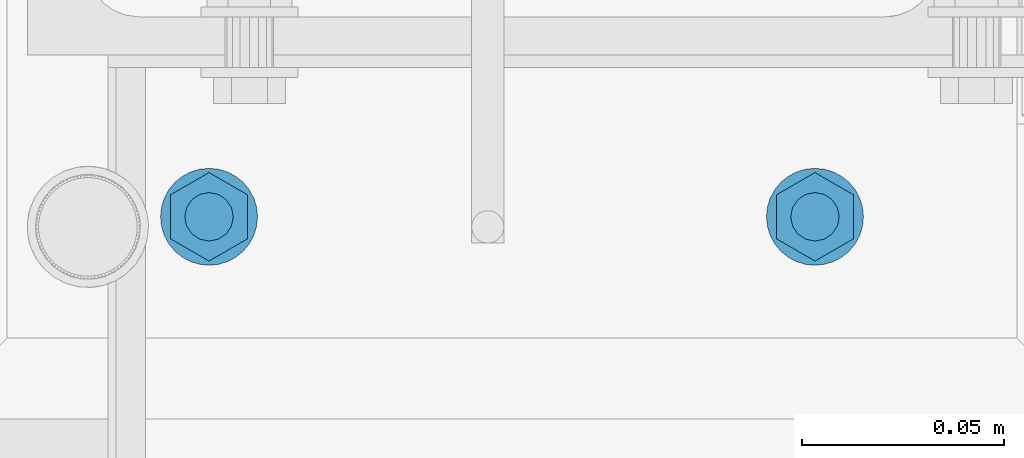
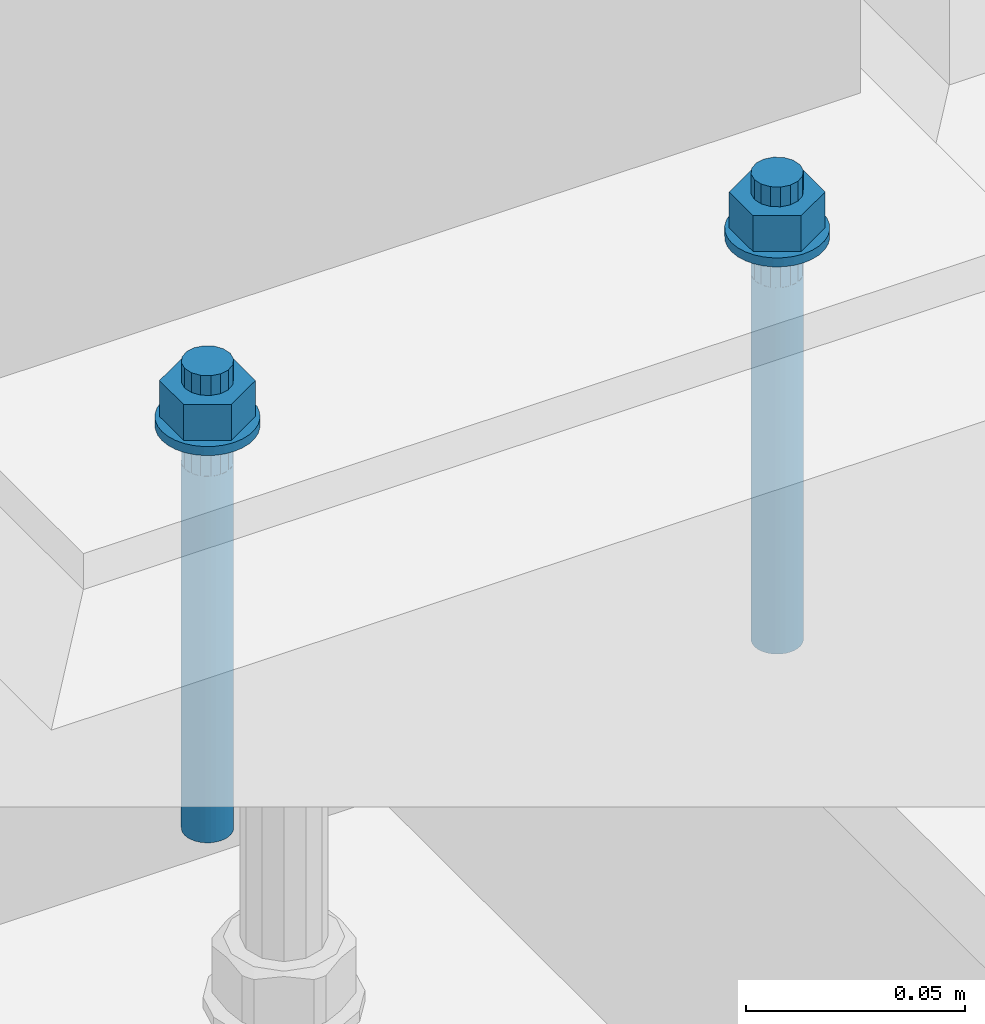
# One storey, part 31 of 145: 1 mechanical fastener.
"""IFC2X3 building model written with IfcOpenShell, lengths in millimetres."""

from ifc_helpers import new_model, entity, si_unit, converted_unit, origin_with_axes, place, context, project, spatial, faceted_brep, element, save


model = new_model("IFC2X3")

# Units and contexts
model_context = context("Model", 3, precision=1e-09, world=origin_with_axes())
ifc_project = project(units=[si_unit("LENGTHUNIT", "METRE", prefix="MILLI"), si_unit("AREAUNIT", "SQUARE_METRE"), si_unit("VOLUMEUNIT", "CUBIC_METRE"), converted_unit("PLANEANGLEUNIT", "DEGREE", entity("IfcPlaneAngleMeasure", 0.01745329), si_unit("PLANEANGLEUNIT", "RADIAN"), dimensions=[0, 0, 0, 0, 0, 0, 0])], contexts=[model_context])

# Site, building, storey
site_placement = place(None, origin_with_axes())
site = spatial("IfcSite", under=ifc_project, at=site_placement, Name="BZ1 Grund- und Mittelschule 85716 Unterschlei?heim", CompositionType="ELEMENT")
building_placement = place(site_placement, origin_with_axes())
building = spatial("IfcBuilding", under=site, at=building_placement, Name="Struktur 1", CompositionType="ELEMENT")
storey_placement = place(building_placement, origin_with_axes())
storey = spatial("IfcBuildingStorey", under=building, at=storey_placement, Name="Default Storey", CompositionType="ELEMENT", Elevation=0.0)

# Mechanical fastener
mechanical_fastener_placement = place(None, origin_with_axes())
element("IfcMechanicalFastener", 1, at=mechanical_fastener_placement, inside=storey, ObjectType="-", NominalDiameter=12.0, NominalLength=130.0, context=model_context, shape_type="Brep", body=[
    faceted_brep([(16827.545399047, -1960.002, -727.5), (16827.545399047, -1960.002, -730.0), (16827.775975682, -1962.343083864, -730.0), (16827.775975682, -1962.343083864, -727.5), (16828.458844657, -1964.594201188, -730.0), (16828.458844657, -1964.594201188, -727.5), (16829.567763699, -1966.668842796, -730.0), (16829.567763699, -1966.668842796, -727.5), (16831.060117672, -1968.487281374, -730.0), (16831.060117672, -1968.487281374, -727.5), (16832.87855625, -1969.979635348, -730.0), (16832.87855625, -1969.979635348, -727.5), (16834.953197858, -1971.08855439, -730.0), (16834.953197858, -1971.08855439, -727.5), (16837.204315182, -1971.771423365, -730.0), (16837.204315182, -1971.771423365, -727.5), (16839.545399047, -1972.002, -730.0), (16839.545399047, -1972.002, -727.5), (16841.886482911, -1971.771423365, -730.0), (16841.886482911, -1971.771423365, -727.5), (16844.137600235, -1971.08855439, -730.0), (16844.137600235, -1971.08855439, -727.5), (16846.212241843, -1969.979635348, -730.0), (16846.212241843, -1969.979635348, -727.5), (16848.030680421, -1968.487281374, -730.0), (16848.030680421, -1968.487281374, -727.5), (16849.523034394, -1966.668842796, -730.0), (16849.523034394, -1966.668842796, -727.5), (16850.631953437, -1964.594201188, -730.0), (16850.631953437, -1964.594201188, -727.5), (16851.314822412, -1962.343083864, -730.0), (16851.314822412, -1962.343083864, -727.5), (16851.545399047, -1960.002, -730.0), (16851.545399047, -1960.002, -727.5), (16851.314822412, -1957.660916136, -730.0), (16851.314822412, -1957.660916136, -727.5), (16850.631953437, -1955.409798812, -730.0), (16850.631953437, -1955.409798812, -727.5), (16849.523034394, -1953.335157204, -730.0), (16849.523034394, -1953.335157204, -727.5), (16848.030680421, -1951.516718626, -730.0), (16848.030680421, -1951.516718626, -727.5), (16846.212241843, -1950.024364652, -730.0), (16846.212241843, -1950.024364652, -727.5), (16844.137600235, -1948.91544561, -730.0), (16844.137600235, -1948.91544561, -727.5), (16841.886482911, -1948.232576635, -730.0), (16841.886482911, -1948.232576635, -727.5), (16839.545399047, -1948.002, -730.0), (16839.545399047, -1948.002, -727.5), (16837.204315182, -1948.232576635, -730.0), (16837.204315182, -1948.232576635, -727.5), (16834.953197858, -1948.91544561, -730.0), (16834.953197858, -1948.91544561, -727.5), (16832.87855625, -1950.024364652, -730.0), (16832.87855625, -1950.024364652, -727.5), (16831.060117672, -1951.516718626, -730.0), (16831.060117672, -1951.516718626, -727.5), (16829.567763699, -1953.335157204, -730.0), (16829.567763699, -1953.335157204, -727.5), (16828.458844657, -1955.409798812, -730.0), (16828.458844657, -1955.409798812, -727.5), (16827.775975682, -1957.660916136, -730.0), (16827.775975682, -1957.660916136, -727.5)], [[[0, 1, 2, 3]], [[3, 2, 4, 5]], [[5, 4, 6, 7]], [[7, 6, 8, 9]], [[9, 8, 10, 11]], [[11, 10, 12, 13]], [[13, 12, 14, 15]], [[15, 14, 16, 17]], [[17, 16, 18, 19]], [[19, 18, 20, 21]], [[21, 20, 22, 23]], [[23, 22, 24, 25]], [[25, 24, 26, 27]], [[27, 26, 28, 29]], [[29, 28, 30, 31]], [[31, 30, 32, 33]], [[33, 32, 34, 35]], [[35, 34, 36, 37]], [[37, 36, 38, 39]], [[39, 38, 40, 41]], [[41, 40, 42, 43]], [[43, 42, 44, 45]], [[45, 44, 46, 47]], [[47, 46, 48, 49]], [[49, 48, 50, 51]], [[51, 50, 52, 53]], [[53, 52, 54, 55]], [[55, 54, 56, 57]], [[57, 56, 58, 59]], [[59, 58, 60, 61]], [[61, 60, 62, 63]], [[63, 62, 1, 0]], [[0, 3, 5, 7, 9, 11, 13, 15, 17, 19, 21, 23, 25, 27, 29, 31, 33, 35, 37, 39, 41, 43, 45, 47, 49, 51, 53, 55, 57, 59, 61, 63]], [[1, 62, 60, 58, 56, 54, 52, 50, 48, 46, 44, 42, 40, 38, 36, 34, 32, 30, 28, 26, 24, 22, 20, 18, 16, 14, 12, 10, 8, 6, 4, 2]]]),
    faceted_brep([(16677.545399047, -1960.002, -727.5), (16677.545399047, -1960.002, -730.0), (16677.775975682, -1962.343083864, -730.0), (16677.775975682, -1962.343083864, -727.5), (16678.458844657, -1964.594201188, -730.0), (16678.458844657, -1964.594201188, -727.5), (16679.567763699, -1966.668842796, -730.0), (16679.567763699, -1966.668842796, -727.5), (16681.060117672, -1968.487281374, -730.0), (16681.060117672, -1968.487281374, -727.5), (16682.87855625, -1969.979635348, -730.0), (16682.87855625, -1969.979635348, -727.5), (16684.953197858, -1971.08855439, -730.0), (16684.953197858, -1971.08855439, -727.5), (16687.204315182, -1971.771423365, -730.0), (16687.204315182, -1971.771423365, -727.5), (16689.545399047, -1972.002, -730.0), (16689.545399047, -1972.002, -727.5), (16691.886482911, -1971.771423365, -730.0), (16691.886482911, -1971.771423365, -727.5), (16694.137600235, -1971.08855439, -730.0), (16694.137600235, -1971.08855439, -727.5), (16696.212241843, -1969.979635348, -730.0), (16696.212241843, -1969.979635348, -727.5), (16698.030680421, -1968.487281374, -730.0), (16698.030680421, -1968.487281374, -727.5), (16699.523034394, -1966.668842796, -730.0), (16699.523034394, -1966.668842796, -727.5), (16700.631953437, -1964.594201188, -730.0), (16700.631953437, -1964.594201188, -727.5), (16701.314822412, -1962.343083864, -730.0), (16701.314822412, -1962.343083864, -727.5), (16701.545399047, -1960.002, -730.0), (16701.545399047, -1960.002, -727.5), (16701.314822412, -1957.660916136, -730.0), (16701.314822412, -1957.660916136, -727.5), (16700.631953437, -1955.409798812, -730.0), (16700.631953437, -1955.409798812, -727.5), (16699.523034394, -1953.335157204, -730.0), (16699.523034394, -1953.335157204, -727.5), (16698.030680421, -1951.516718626, -730.0), (16698.030680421, -1951.516718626, -727.5), (16696.212241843, -1950.024364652, -730.0), (16696.212241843, -1950.024364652, -727.5), (16694.137600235, -1948.91544561, -730.0), (16694.137600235, -1948.91544561, -727.5), (16691.886482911, -1948.232576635, -730.0), (16691.886482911, -1948.232576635, -727.5), (16689.545399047, -1948.002, -730.0), (16689.545399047, -1948.002, -727.5), (16687.204315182, -1948.232576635, -730.0), (16687.204315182, -1948.232576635, -727.5), (16684.953197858, -1948.91544561, -730.0), (16684.953197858, -1948.91544561, -727.5), (16682.87855625, -1950.024364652, -730.0), (16682.87855625, -1950.024364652, -727.5), (16681.060117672, -1951.516718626, -730.0), (16681.060117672, -1951.516718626, -727.5), (16679.567763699, -1953.335157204, -730.0), (16679.567763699, -1953.335157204, -727.5), (16678.458844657, -1955.409798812, -730.0), (16678.458844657, -1955.409798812, -727.5), (16677.775975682, -1957.660916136, -730.0), (16677.775975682, -1957.660916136, -727.5)], [[[0, 1, 2, 3]], [[3, 2, 4, 5]], [[5, 4, 6, 7]], [[7, 6, 8, 9]], [[9, 8, 10, 11]], [[11, 10, 12, 13]], [[13, 12, 14, 15]], [[15, 14, 16, 17]], [[17, 16, 18, 19]], [[19, 18, 20, 21]], [[21, 20, 22, 23]], [[23, 22, 24, 25]], [[25, 24, 26, 27]], [[27, 26, 28, 29]], [[29, 28, 30, 31]], [[31, 30, 32, 33]], [[33, 32, 34, 35]], [[35, 34, 36, 37]], [[37, 36, 38, 39]], [[39, 38, 40, 41]], [[41, 40, 42, 43]], [[43, 42, 44, 45]], [[45, 44, 46, 47]], [[47, 46, 48, 49]], [[49, 48, 50, 51]], [[51, 50, 52, 53]], [[53, 52, 54, 55]], [[55, 54, 56, 57]], [[57, 56, 58, 59]], [[59, 58, 60, 61]], [[61, 60, 62, 63]], [[63, 62, 1, 0]], [[0, 3, 5, 7, 9, 11, 13, 15, 17, 19, 21, 23, 25, 27, 29, 31, 33, 35, 37, 39, 41, 43, 45, 47, 49, 51, 53, 55, 57, 59, 61, 63]], [[1, 62, 60, 58, 56, 54, 52, 50, 48, 46, 44, 42, 40, 38, 36, 34, 32, 30, 28, 26, 24, 22, 20, 18, 16, 14, 12, 10, 8, 6, 4, 2]]]),
    faceted_brep([(16849.028377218, -1965.477, -727.5), (16849.028377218, -1965.477, -717.5), (16839.545399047, -1970.952, -717.5), (16839.545399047, -1970.952, -727.5), (16830.062420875, -1965.477, -717.5), (16830.062420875, -1965.477, -727.5), (16830.062420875, -1954.527, -717.5), (16830.062420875, -1954.527, -727.5), (16839.545399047, -1949.052, -717.5), (16839.545399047, -1949.052, -727.5), (16849.028377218, -1954.527, -717.5), (16849.028377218, -1954.527, -727.5)], [[[0, 1, 2, 3]], [[3, 2, 4, 5]], [[5, 4, 6, 7]], [[7, 6, 8, 9]], [[9, 8, 10, 11]], [[11, 10, 1, 0]], [[4, 2, 1, 10, 8, 6]], [[0, 3, 5, 7, 9, 11]]]),
    faceted_brep([(16699.028377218, -1965.477, -727.5), (16699.028377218, -1965.477, -717.5), (16689.545399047, -1970.952, -717.5), (16689.545399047, -1970.952, -727.5), (16680.062420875, -1965.477, -717.5), (16680.062420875, -1965.477, -727.5), (16680.062420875, -1954.527, -717.5), (16680.062420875, -1954.527, -727.5), (16689.545399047, -1949.052, -717.5), (16689.545399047, -1949.052, -727.5), (16699.028377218, -1954.527, -717.5), (16699.028377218, -1954.527, -727.5)], [[[0, 1, 2, 3]], [[3, 2, 4, 5]], [[5, 4, 6, 7]], [[7, 6, 8, 9]], [[9, 8, 10, 11]], [[11, 10, 1, 0]], [[4, 2, 1, 10, 8, 6]], [[0, 3, 5, 7, 9, 11]]]),
    faceted_brep([(16833.545399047, -1960.002, -712.0), (16833.545399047, -1960.002, -717.5), (16834.002121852, -1962.298100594, -717.5), (16834.002121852, -1962.298100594, -712.0), (16835.30275836, -1964.244640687, -717.5), (16835.30275836, -1964.244640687, -712.0), (16837.249298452, -1965.545277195, -717.5), (16837.249298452, -1965.545277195, -712.0), (16839.545399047, -1966.002, -717.5), (16839.545399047, -1966.002, -712.0), (16841.841499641, -1965.545277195, -717.5), (16841.841499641, -1965.545277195, -712.0), (16843.788039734, -1964.244640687, -717.5), (16843.788039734, -1964.244640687, -712.0), (16845.088676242, -1962.298100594, -717.5), (16845.088676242, -1962.298100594, -712.0), (16845.545399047, -1960.002, -717.5), (16845.545399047, -1960.002, -712.0), (16845.088676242, -1957.705899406, -717.5), (16845.088676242, -1957.705899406, -712.0), (16843.788039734, -1955.759359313, -717.5), (16843.788039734, -1955.759359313, -712.0), (16841.841499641, -1954.458722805, -717.5), (16841.841499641, -1954.458722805, -712.0), (16839.545399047, -1954.002, -717.5), (16839.545399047, -1954.002, -712.0), (16837.249298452, -1954.458722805, -717.5), (16837.249298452, -1954.458722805, -712.0), (16835.30275836, -1955.759359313, -717.5), (16835.30275836, -1955.759359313, -712.0), (16834.002121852, -1957.705899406, -717.5), (16834.002121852, -1957.705899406, -712.0)], [[[0, 1, 2, 3]], [[3, 2, 4, 5]], [[5, 4, 6, 7]], [[7, 6, 8, 9]], [[9, 8, 10, 11]], [[11, 10, 12, 13]], [[13, 12, 14, 15]], [[15, 14, 16, 17]], [[17, 16, 18, 19]], [[19, 18, 20, 21]], [[21, 20, 22, 23]], [[23, 22, 24, 25]], [[25, 24, 26, 27]], [[27, 26, 28, 29]], [[29, 28, 30, 31]], [[31, 30, 1, 0]], [[0, 3, 5, 7, 9, 11, 13, 15, 17, 19, 21, 23, 25, 27, 29, 31]], [[1, 30, 28, 26, 24, 22, 20, 18, 16, 14, 12, 10, 8, 6, 4, 2]]]),
    faceted_brep([(16683.545399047, -1960.002, -712.0), (16683.545399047, -1960.002, -717.5), (16684.002121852, -1962.298100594, -717.5), (16684.002121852, -1962.298100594, -712.0), (16685.30275836, -1964.244640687, -717.5), (16685.30275836, -1964.244640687, -712.0), (16687.249298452, -1965.545277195, -717.5), (16687.249298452, -1965.545277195, -712.0), (16689.545399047, -1966.002, -717.5), (16689.545399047, -1966.002, -712.0), (16691.841499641, -1965.545277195, -717.5), (16691.841499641, -1965.545277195, -712.0), (16693.788039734, -1964.244640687, -717.5), (16693.788039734, -1964.244640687, -712.0), (16695.088676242, -1962.298100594, -717.5), (16695.088676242, -1962.298100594, -712.0), (16695.545399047, -1960.002, -717.5), (16695.545399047, -1960.002, -712.0), (16695.088676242, -1957.705899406, -717.5), (16695.088676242, -1957.705899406, -712.0), (16693.788039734, -1955.759359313, -717.5), (16693.788039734, -1955.759359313, -712.0), (16691.841499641, -1954.458722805, -717.5), (16691.841499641, -1954.458722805, -712.0), (16689.545399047, -1954.002, -717.5), (16689.545399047, -1954.002, -712.0), (16687.249298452, -1954.458722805, -717.5), (16687.249298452, -1954.458722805, -712.0), (16685.30275836, -1955.759359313, -717.5), (16685.30275836, -1955.759359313, -712.0), (16684.002121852, -1957.705899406, -717.5), (16684.002121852, -1957.705899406, -712.0)], [[[0, 1, 2, 3]], [[3, 2, 4, 5]], [[5, 4, 6, 7]], [[7, 6, 8, 9]], [[9, 8, 10, 11]], [[11, 10, 12, 13]], [[13, 12, 14, 15]], [[15, 14, 16, 17]], [[17, 16, 18, 19]], [[19, 18, 20, 21]], [[21, 20, 22, 23]], [[23, 22, 24, 25]], [[25, 24, 26, 27]], [[27, 26, 28, 29]], [[29, 28, 30, 31]], [[31, 30, 1, 0]], [[0, 3, 5, 7, 9, 11, 13, 15, 17, 19, 21, 23, 25, 27, 29, 31]], [[1, 30, 28, 26, 24, 22, 20, 18, 16, 14, 12, 10, 8, 6, 4, 2]]]),
    faceted_brep([(16833.545399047, -1960.002, -730.0), (16833.545399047, -1960.002, -740.0), (16834.002121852, -1962.298100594, -740.0), (16834.002121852, -1962.298100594, -730.0), (16835.30275836, -1964.244640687, -740.0), (16835.30275836, -1964.244640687, -730.0), (16837.249298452, -1965.545277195, -740.0), (16837.249298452, -1965.545277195, -730.0), (16839.545399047, -1966.002, -740.0), (16839.545399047, -1966.002, -730.0), (16841.841499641, -1965.545277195, -740.0), (16841.841499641, -1965.545277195, -730.0), (16843.788039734, -1964.244640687, -740.0), (16843.788039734, -1964.244640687, -730.0), (16845.088676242, -1962.298100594, -740.0), (16845.088676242, -1962.298100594, -730.0), (16845.545399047, -1960.002, -740.0), (16845.545399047, -1960.002, -730.0), (16845.088676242, -1957.705899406, -740.0), (16845.088676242, -1957.705899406, -730.0), (16843.788039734, -1955.759359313, -740.0), (16843.788039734, -1955.759359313, -730.0), (16841.841499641, -1954.458722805, -740.0), (16841.841499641, -1954.458722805, -730.0), (16839.545399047, -1954.002, -740.0), (16839.545399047, -1954.002, -730.0), (16837.249298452, -1954.458722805, -740.0), (16837.249298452, -1954.458722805, -730.0), (16835.30275836, -1955.759359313, -740.0), (16835.30275836, -1955.759359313, -730.0), (16834.002121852, -1957.705899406, -740.0), (16834.002121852, -1957.705899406, -730.0)], [[[0, 1, 2, 3]], [[3, 2, 4, 5]], [[5, 4, 6, 7]], [[7, 6, 8, 9]], [[9, 8, 10, 11]], [[11, 10, 12, 13]], [[13, 12, 14, 15]], [[15, 14, 16, 17]], [[17, 16, 18, 19]], [[19, 18, 20, 21]], [[21, 20, 22, 23]], [[23, 22, 24, 25]], [[25, 24, 26, 27]], [[27, 26, 28, 29]], [[29, 28, 30, 31]], [[31, 30, 1, 0]], [[0, 3, 5, 7, 9, 11, 13, 15, 17, 19, 21, 23, 25, 27, 29, 31]], [[1, 30, 28, 26, 24, 22, 20, 18, 16, 14, 12, 10, 8, 6, 4, 2]]]),
    faceted_brep([(16683.545399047, -1960.002, -730.0), (16683.545399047, -1960.002, -740.0), (16684.002121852, -1962.298100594, -740.0), (16684.002121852, -1962.298100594, -730.0), (16685.30275836, -1964.244640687, -740.0), (16685.30275836, -1964.244640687, -730.0), (16687.249298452, -1965.545277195, -740.0), (16687.249298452, -1965.545277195, -730.0), (16689.545399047, -1966.002, -740.0), (16689.545399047, -1966.002, -730.0), (16691.841499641, -1965.545277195, -740.0), (16691.841499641, -1965.545277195, -730.0), (16693.788039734, -1964.244640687, -740.0), (16693.788039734, -1964.244640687, -730.0), (16695.088676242, -1962.298100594, -740.0), (16695.088676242, -1962.298100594, -730.0), (16695.545399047, -1960.002, -740.0), (16695.545399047, -1960.002, -730.0), (16695.088676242, -1957.705899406, -740.0), (16695.088676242, -1957.705899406, -730.0), (16693.788039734, -1955.759359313, -740.0), (16693.788039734, -1955.759359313, -730.0), (16691.841499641, -1954.458722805, -740.0), (16691.841499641, -1954.458722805, -730.0), (16689.545399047, -1954.002, -740.0), (16689.545399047, -1954.002, -730.0), (16687.249298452, -1954.458722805, -740.0), (16687.249298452, -1954.458722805, -730.0), (16685.30275836, -1955.759359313, -740.0), (16685.30275836, -1955.759359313, -730.0), (16684.002121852, -1957.705899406, -740.0), (16684.002121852, -1957.705899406, -730.0)], [[[0, 1, 2, 3]], [[3, 2, 4, 5]], [[5, 4, 6, 7]], [[7, 6, 8, 9]], [[9, 8, 10, 11]], [[11, 10, 12, 13]], [[13, 12, 14, 15]], [[15, 14, 16, 17]], [[17, 16, 18, 19]], [[19, 18, 20, 21]], [[21, 20, 22, 23]], [[23, 22, 24, 25]], [[25, 24, 26, 27]], [[27, 26, 28, 29]], [[29, 28, 30, 31]], [[31, 30, 1, 0]], [[0, 3, 5, 7, 9, 11, 13, 15, 17, 19, 21, 23, 25, 27, 29, 31]], [[1, 30, 28, 26, 24, 22, 20, 18, 16, 14, 12, 10, 8, 6, 4, 2]]]),
    faceted_brep([(16833.545399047, -1960.002, -740.0), (16833.545399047, -1960.002, -842.0), (16833.660687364, -1961.172541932, -842.0), (16833.660687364, -1961.172541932, -740.0), (16834.002121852, -1962.298100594, -842.0), (16834.002121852, -1962.298100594, -740.0), (16834.556581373, -1963.335421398, -842.0), (16834.556581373, -1963.335421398, -740.0), (16835.30275836, -1964.244640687, -842.0), (16835.30275836, -1964.244640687, -740.0), (16836.211977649, -1964.990817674, -842.0), (16836.211977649, -1964.990817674, -740.0), (16837.249298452, -1965.545277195, -842.0), (16837.249298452, -1965.545277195, -740.0), (16838.374857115, -1965.886711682, -842.0), (16838.374857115, -1965.886711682, -740.0), (16839.545399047, -1966.002, -842.0), (16839.545399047, -1966.002, -740.0), (16840.715940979, -1965.886711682, -842.0), (16840.715940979, -1965.886711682, -740.0), (16841.841499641, -1965.545277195, -842.0), (16841.841499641, -1965.545277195, -740.0), (16842.878820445, -1964.990817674, -842.0), (16842.878820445, -1964.990817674, -740.0), (16843.788039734, -1964.244640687, -842.0), (16843.788039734, -1964.244640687, -740.0), (16844.53421672, -1963.335421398, -842.0), (16844.53421672, -1963.335421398, -740.0), (16845.088676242, -1962.298100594, -842.0), (16845.088676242, -1962.298100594, -740.0), (16845.430110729, -1961.172541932, -842.0), (16845.430110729, -1961.172541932, -740.0), (16845.545399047, -1960.002, -842.0), (16845.545399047, -1960.002, -740.0), (16845.430110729, -1958.831458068, -842.0), (16845.430110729, -1958.831458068, -740.0), (16845.088676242, -1957.705899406, -842.0), (16845.088676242, -1957.705899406, -740.0), (16844.53421672, -1956.668578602, -842.0), (16844.53421672, -1956.668578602, -740.0), (16843.788039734, -1955.759359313, -842.0), (16843.788039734, -1955.759359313, -740.0), (16842.878820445, -1955.013182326, -842.0), (16842.878820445, -1955.013182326, -740.0), (16841.841499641, -1954.458722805, -842.0), (16841.841499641, -1954.458722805, -740.0), (16840.715940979, -1954.117288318, -842.0), (16840.715940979, -1954.117288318, -740.0), (16839.545399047, -1954.002, -842.0), (16839.545399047, -1954.002, -740.0), (16838.374857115, -1954.117288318, -842.0), (16838.374857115, -1954.117288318, -740.0), (16837.249298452, -1954.458722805, -842.0), (16837.249298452, -1954.458722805, -740.0), (16836.211977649, -1955.013182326, -842.0), (16836.211977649, -1955.013182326, -740.0), (16835.30275836, -1955.759359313, -842.0), (16835.30275836, -1955.759359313, -740.0), (16834.556581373, -1956.668578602, -842.0), (16834.556581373, -1956.668578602, -740.0), (16834.002121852, -1957.705899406, -842.0), (16834.002121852, -1957.705899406, -740.0), (16833.660687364, -1958.831458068, -842.0), (16833.660687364, -1958.831458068, -740.0)], [[[0, 1, 2, 3]], [[3, 2, 4, 5]], [[5, 4, 6, 7]], [[7, 6, 8, 9]], [[9, 8, 10, 11]], [[11, 10, 12, 13]], [[13, 12, 14, 15]], [[15, 14, 16, 17]], [[17, 16, 18, 19]], [[19, 18, 20, 21]], [[21, 20, 22, 23]], [[23, 22, 24, 25]], [[25, 24, 26, 27]], [[27, 26, 28, 29]], [[29, 28, 30, 31]], [[31, 30, 32, 33]], [[33, 32, 34, 35]], [[35, 34, 36, 37]], [[37, 36, 38, 39]], [[39, 38, 40, 41]], [[41, 40, 42, 43]], [[43, 42, 44, 45]], [[45, 44, 46, 47]], [[47, 46, 48, 49]], [[49, 48, 50, 51]], [[51, 50, 52, 53]], [[53, 52, 54, 55]], [[55, 54, 56, 57]], [[57, 56, 58, 59]], [[59, 58, 60, 61]], [[61, 60, 62, 63]], [[63, 62, 1, 0]], [[0, 3, 5, 7, 9, 11, 13, 15, 17, 19, 21, 23, 25, 27, 29, 31, 33, 35, 37, 39, 41, 43, 45, 47, 49, 51, 53, 55, 57, 59, 61, 63]], [[1, 62, 60, 58, 56, 54, 52, 50, 48, 46, 44, 42, 40, 38, 36, 34, 32, 30, 28, 26, 24, 22, 20, 18, 16, 14, 12, 10, 8, 6, 4, 2]]]),
    faceted_brep([(16683.545399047, -1960.002, -740.0), (16683.545399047, -1960.002, -842.0), (16683.660687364, -1961.172541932, -842.0), (16683.660687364, -1961.172541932, -740.0), (16684.002121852, -1962.298100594, -842.0), (16684.002121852, -1962.298100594, -740.0), (16684.556581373, -1963.335421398, -842.0), (16684.556581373, -1963.335421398, -740.0), (16685.30275836, -1964.244640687, -842.0), (16685.30275836, -1964.244640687, -740.0), (16686.211977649, -1964.990817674, -842.0), (16686.211977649, -1964.990817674, -740.0), (16687.249298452, -1965.545277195, -842.0), (16687.249298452, -1965.545277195, -740.0), (16688.374857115, -1965.886711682, -842.0), (16688.374857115, -1965.886711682, -740.0), (16689.545399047, -1966.002, -842.0), (16689.545399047, -1966.002, -740.0), (16690.715940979, -1965.886711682, -842.0), (16690.715940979, -1965.886711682, -740.0), (16691.841499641, -1965.545277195, -842.0), (16691.841499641, -1965.545277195, -740.0), (16692.878820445, -1964.990817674, -842.0), (16692.878820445, -1964.990817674, -740.0), (16693.788039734, -1964.244640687, -842.0), (16693.788039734, -1964.244640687, -740.0), (16694.53421672, -1963.335421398, -842.0), (16694.53421672, -1963.335421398, -740.0), (16695.088676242, -1962.298100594, -842.0), (16695.088676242, -1962.298100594, -740.0), (16695.430110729, -1961.172541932, -842.0), (16695.430110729, -1961.172541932, -740.0), (16695.545399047, -1960.002, -842.0), (16695.545399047, -1960.002, -740.0), (16695.430110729, -1958.831458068, -842.0), (16695.430110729, -1958.831458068, -740.0), (16695.088676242, -1957.705899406, -842.0), (16695.088676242, -1957.705899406, -740.0), (16694.53421672, -1956.668578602, -842.0), (16694.53421672, -1956.668578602, -740.0), (16693.788039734, -1955.759359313, -842.0), (16693.788039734, -1955.759359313, -740.0), (16692.878820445, -1955.013182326, -842.0), (16692.878820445, -1955.013182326, -740.0), (16691.841499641, -1954.458722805, -842.0), (16691.841499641, -1954.458722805, -740.0), (16690.715940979, -1954.117288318, -842.0), (16690.715940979, -1954.117288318, -740.0), (16689.545399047, -1954.002, -842.0), (16689.545399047, -1954.002, -740.0), (16688.374857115, -1954.117288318, -842.0), (16688.374857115, -1954.117288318, -740.0), (16687.249298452, -1954.458722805, -842.0), (16687.249298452, -1954.458722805, -740.0), (16686.211977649, -1955.013182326, -842.0), (16686.211977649, -1955.013182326, -740.0), (16685.30275836, -1955.759359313, -842.0), (16685.30275836, -1955.759359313, -740.0), (16684.556581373, -1956.668578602, -842.0), (16684.556581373, -1956.668578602, -740.0), (16684.002121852, -1957.705899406, -842.0), (16684.002121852, -1957.705899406, -740.0), (16683.660687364, -1958.831458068, -842.0), (16683.660687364, -1958.831458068, -740.0)], [[[0, 1, 2, 3]], [[3, 2, 4, 5]], [[5, 4, 6, 7]], [[7, 6, 8, 9]], [[9, 8, 10, 11]], [[11, 10, 12, 13]], [[13, 12, 14, 15]], [[15, 14, 16, 17]], [[17, 16, 18, 19]], [[19, 18, 20, 21]], [[21, 20, 22, 23]], [[23, 22, 24, 25]], [[25, 24, 26, 27]], [[27, 26, 28, 29]], [[29, 28, 30, 31]], [[31, 30, 32, 33]], [[33, 32, 34, 35]], [[35, 34, 36, 37]], [[37, 36, 38, 39]], [[39, 38, 40, 41]], [[41, 40, 42, 43]], [[43, 42, 44, 45]], [[45, 44, 46, 47]], [[47, 46, 48, 49]], [[49, 48, 50, 51]], [[51, 50, 52, 53]], [[53, 52, 54, 55]], [[55, 54, 56, 57]], [[57, 56, 58, 59]], [[59, 58, 60, 61]], [[61, 60, 62, 63]], [[63, 62, 1, 0]], [[0, 3, 5, 7, 9, 11, 13, 15, 17, 19, 21, 23, 25, 27, 29, 31, 33, 35, 37, 39, 41, 43, 45, 47, 49, 51, 53, 55, 57, 59, 61, 63]], [[1, 62, 60, 58, 56, 54, 52, 50, 48, 46, 44, 42, 40, 38, 36, 34, 32, 30, 28, 26, 24, 22, 20, 18, 16, 14, 12, 10, 8, 6, 4, 2]]]),
])

save(model, "model.ifc")
